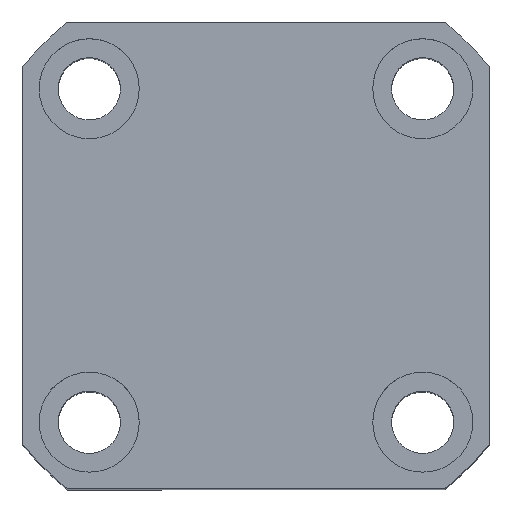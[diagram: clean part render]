
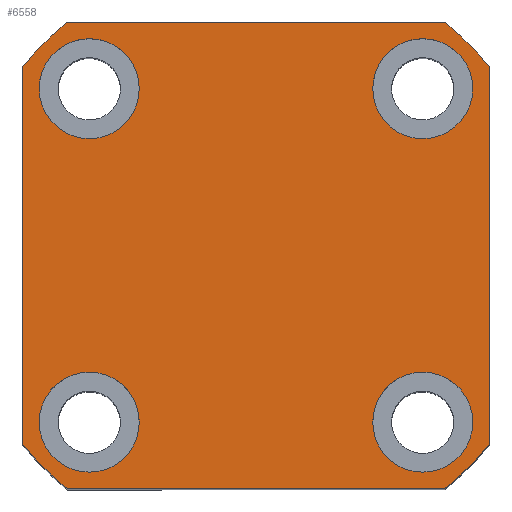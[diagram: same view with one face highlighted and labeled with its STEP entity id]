
A CAD part, top view. The second image highlights one B-rep face of the part: STEP entity #6558.
In plain terms, the highlighted planar face has unit normal (0, 0, 1).
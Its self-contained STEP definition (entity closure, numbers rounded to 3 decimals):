
#4 = CIRCLE ( 'NONE', #5222, 27. ) ;
#18 = CARTESIAN_POINT ( 'NONE',  ( 21., -16.971, 58. ) ) ;
#69 = AXIS2_PLACEMENT_3D ( 'NONE', #9489, #4576, #10306 ) ;
#367 = DIRECTION ( 'NONE',  ( -1., 0., 0. ) ) ;
#392 = DIRECTION ( 'NONE',  ( 1., 0., 0. ) ) ;
#482 = VERTEX_POINT ( 'NONE', #3197 ) ;
#533 = VERTEX_POINT ( 'NONE', #5175 ) ;
#580 = DIRECTION ( 'NONE',  ( 0., 0., 1. ) ) ;
#681 = ORIENTED_EDGE ( 'NONE', *, *, #8653, .T. ) ;
#700 = EDGE_LOOP ( 'NONE', ( #1921, #4027 ) ) ;
#827 = AXIS2_PLACEMENT_3D ( 'NONE', #8312, #3436, #9141 ) ;
#992 = CARTESIAN_POINT ( 'NONE',  ( 15., 15., 58. ) ) ;
#1082 = AXIS2_PLACEMENT_3D ( 'NONE', #5489, #580, #6335 ) ;
#1099 = FACE_BOUND ( 'NONE', #3738, .T. ) ;
#1320 = CARTESIAN_POINT ( 'NONE',  ( 19.5, -14.998, 58. ) ) ;
#1518 = VERTEX_POINT ( 'NONE', #2581 ) ;
#1649 = CARTESIAN_POINT ( 'NONE',  ( 15., -14.998, 58. ) ) ;
#1822 = DIRECTION ( 'NONE',  ( 1., 0., 0. ) ) ;
#1921 = ORIENTED_EDGE ( 'NONE', *, *, #6155, .F. ) ;
#2032 = LINE ( 'NONE', #3797, #10510 ) ;
#2082 = CARTESIAN_POINT ( 'NONE',  ( 21., 21., 58. ) ) ;
#2211 = ORIENTED_EDGE ( 'NONE', *, *, #4512, .T. ) ;
#2319 = CARTESIAN_POINT ( 'NONE',  ( -21., 16.971, 58. ) ) ;
#2340 = AXIS2_PLACEMENT_3D ( 'NONE', #992, #6756, #1822 ) ;
#2500 = DIRECTION ( 'NONE',  ( 1., 0., 0. ) ) ;
#2577 = EDGE_CURVE ( 'NONE', #5698, #482, #8083, .T. ) ;
#2578 = EDGE_CURVE ( 'NONE', #1518, #7618, #5391, .T. ) ;
#2581 = CARTESIAN_POINT ( 'NONE',  ( 19.5, 15., 58. ) ) ;
#2615 = DIRECTION ( 'NONE',  ( 0., -1., 0. ) ) ;
#2632 = ORIENTED_EDGE ( 'NONE', *, *, #7930, .F. ) ;
#2656 = CARTESIAN_POINT ( 'NONE',  ( -19.5, 15.002, 58. ) ) ;
#2689 = CARTESIAN_POINT ( 'NONE',  ( 16.971, 21., 58. ) ) ;
#2700 = VECTOR ( 'NONE', #3765, 1000. ) ;
#2743 = AXIS2_PLACEMENT_3D ( 'NONE', #3083, #8794, #3912 ) ;
#2756 = ORIENTED_EDGE ( 'NONE', *, *, #7371, .T. ) ;
#2802 = EDGE_CURVE ( 'NONE', #5651, #5698, #4, .T. ) ;
#2937 = CARTESIAN_POINT ( 'NONE',  ( 10.5, 15., 58. ) ) ;
#2972 = VERTEX_POINT ( 'NONE', #7332 ) ;
#3083 = CARTESIAN_POINT ( 'NONE',  ( 0., 0., 58. ) ) ;
#3151 = AXIS2_PLACEMENT_3D ( 'NONE', #7195, #3942, #9674 ) ;
#3197 = CARTESIAN_POINT ( 'NONE',  ( 16.971, -21., 58. ) ) ;
#3238 = VECTOR ( 'NONE', #9263, 1000. ) ;
#3384 = CARTESIAN_POINT ( 'NONE',  ( 10.5, -14.998, 58. ) ) ;
#3436 = DIRECTION ( 'NONE',  ( 0., 0., 1. ) ) ;
#3464 = CARTESIAN_POINT ( 'NONE',  ( -15., 15.002, 58. ) ) ;
#3520 = DIRECTION ( 'NONE',  ( 1., 0., 0. ) ) ;
#3558 = DIRECTION ( 'NONE',  ( 0., 0., 1. ) ) ;
#3587 = FACE_BOUND ( 'NONE', #5927, .T. ) ;
#3589 = CARTESIAN_POINT ( 'NONE',  ( 0., 0., 58. ) ) ;
#3732 = EDGE_CURVE ( 'NONE', #2972, #9034, #9880, .T. ) ;
#3738 = EDGE_LOOP ( 'NONE', ( #8786, #9442 ) ) ;
#3765 = DIRECTION ( 'NONE',  ( 0., 1., 0. ) ) ;
#3797 = CARTESIAN_POINT ( 'NONE',  ( -21., 21., 58. ) ) ;
#3906 = AXIS2_PLACEMENT_3D ( 'NONE', #3464, #9174, #4277 ) ;
#3912 = DIRECTION ( 'NONE',  ( 1., 0., 0. ) ) ;
#3935 = AXIS2_PLACEMENT_3D ( 'NONE', #9754, #4821, #10560 ) ;
#3942 = DIRECTION ( 'NONE',  ( 0., 0., 1. ) ) ;
#3989 = CIRCLE ( 'NONE', #69, 4.5 ) ;
#4027 = ORIENTED_EDGE ( 'NONE', *, *, #7264, .F. ) ;
#4256 = DIRECTION ( 'NONE',  ( 0., 0., 1. ) ) ;
#4277 = DIRECTION ( 'NONE',  ( 1., 0., 0. ) ) ;
#4293 = ORIENTED_EDGE ( 'NONE', *, *, #8200, .T. ) ;
#4512 = EDGE_CURVE ( 'NONE', #4972, #6281, #5492, .T. ) ;
#4576 = DIRECTION ( 'NONE',  ( 0., 0., 1. ) ) ;
#4588 = VERTEX_POINT ( 'NONE', #1320 ) ;
#4682 = CARTESIAN_POINT ( 'NONE',  ( -10.5, -14.998, 58. ) ) ;
#4744 = VERTEX_POINT ( 'NONE', #2656 ) ;
#4821 = DIRECTION ( 'NONE',  ( 0., 0., 1. ) ) ;
#4843 = CIRCLE ( 'NONE', #3906, 4.5 ) ;
#4949 = ORIENTED_EDGE ( 'NONE', *, *, #7787, .F. ) ;
#4972 = VERTEX_POINT ( 'NONE', #9429 ) ;
#5059 = CARTESIAN_POINT ( 'NONE',  ( -21., 21., 58. ) ) ;
#5133 = LINE ( 'NONE', #2082, #2700 ) ;
#5175 = CARTESIAN_POINT ( 'NONE',  ( -16.971, 21., 58. ) ) ;
#5222 = AXIS2_PLACEMENT_3D ( 'NONE', #3589, #3558, #3520 ) ;
#5250 = VECTOR ( 'NONE', #2615, 1000. ) ;
#5254 = CIRCLE ( 'NONE', #1082, 27. ) ;
#5271 = ORIENTED_EDGE ( 'NONE', *, *, #2577, .T. ) ;
#5303 = DIRECTION ( 'NONE',  ( 0., 0., 1. ) ) ;
#5391 = CIRCLE ( 'NONE', #10614, 4.5 ) ;
#5473 = FACE_BOUND ( 'NONE', #700, .T. ) ;
#5489 = CARTESIAN_POINT ( 'NONE',  ( 0., 0., 58. ) ) ;
#5492 = CIRCLE ( 'NONE', #2743, 27. ) ;
#5534 = CARTESIAN_POINT ( 'NONE',  ( -21., -16.971, 58. ) ) ;
#5623 = CIRCLE ( 'NONE', #3935, 4.5 ) ;
#5651 = VERTEX_POINT ( 'NONE', #5534 ) ;
#5698 = VERTEX_POINT ( 'NONE', #9678 ) ;
#5873 = CIRCLE ( 'NONE', #2340, 4.5 ) ;
#5886 = VERTEX_POINT ( 'NONE', #3384 ) ;
#5905 = VERTEX_POINT ( 'NONE', #18 ) ;
#5927 = EDGE_LOOP ( 'NONE', ( #2632, #4949 ) ) ;
#5989 = EDGE_LOOP ( 'NONE', ( #8094, #9504 ) ) ;
#6155 = EDGE_CURVE ( 'NONE', #9470, #4744, #4843, .T. ) ;
#6281 = VERTEX_POINT ( 'NONE', #2689 ) ;
#6335 = DIRECTION ( 'NONE',  ( 1., 0., 0. ) ) ;
#6429 = ORIENTED_EDGE ( 'NONE', *, *, #9031, .T. ) ;
#6558 = ADVANCED_FACE ( 'NONE', ( #5473, #9855, #3587, #1099, #7664 ), #8828, .T. ) ;
#6616 = AXIS2_PLACEMENT_3D ( 'NONE', #9156, #4256, #9978 ) ;
#6743 = ORIENTED_EDGE ( 'NONE', *, *, #9248, .T. ) ;
#6756 = DIRECTION ( 'NONE',  ( 0., 0., 1. ) ) ;
#6783 = CIRCLE ( 'NONE', #6616, 27. ) ;
#6821 = AXIS2_PLACEMENT_3D ( 'NONE', #10210, #5303, #392 ) ;
#7118 = CARTESIAN_POINT ( 'NONE',  ( -10.5, 15.002, 58. ) ) ;
#7195 = CARTESIAN_POINT ( 'NONE',  ( 0., 0., 58. ) ) ;
#7264 = EDGE_CURVE ( 'NONE', #4744, #9470, #7687, .T. ) ;
#7307 = CIRCLE ( 'NONE', #8857, 4.5 ) ;
#7332 = CARTESIAN_POINT ( 'NONE',  ( -19.5, -14.998, 58. ) ) ;
#7371 = EDGE_CURVE ( 'NONE', #10277, #5651, #9626, .T. ) ;
#7416 = DIRECTION ( 'NONE',  ( 0., 0., 1. ) ) ;
#7591 = EDGE_CURVE ( 'NONE', #9034, #2972, #3989, .T. ) ;
#7618 = VERTEX_POINT ( 'NONE', #2937 ) ;
#7664 = FACE_OUTER_BOUND ( 'NONE', #8724, .T. ) ;
#7687 = CIRCLE ( 'NONE', #827, 4.5 ) ;
#7787 = EDGE_CURVE ( 'NONE', #5886, #4588, #5623, .T. ) ;
#7930 = EDGE_CURVE ( 'NONE', #4588, #5886, #7307, .T. ) ;
#8083 = LINE ( 'NONE', #9225, #3238 ) ;
#8094 = ORIENTED_EDGE ( 'NONE', *, *, #7591, .F. ) ;
#8200 = EDGE_CURVE ( 'NONE', #6281, #533, #2032, .T. ) ;
#8312 = CARTESIAN_POINT ( 'NONE',  ( -15., 15.002, 58. ) ) ;
#8653 = EDGE_CURVE ( 'NONE', #5905, #4972, #5133, .T. ) ;
#8724 = EDGE_LOOP ( 'NONE', ( #681, #2211, #4293, #6743, #2756, #10432, #5271, #6429 ) ) ;
#8786 = ORIENTED_EDGE ( 'NONE', *, *, #2578, .F. ) ;
#8794 = DIRECTION ( 'NONE',  ( 0., 0., 1. ) ) ;
#8828 = PLANE ( 'NONE',  #3151 ) ;
#8857 = AXIS2_PLACEMENT_3D ( 'NONE', #1649, #7416, #2500 ) ;
#8914 = DIRECTION ( 'NONE',  ( 1., 0., 0. ) ) ;
#8936 = DIRECTION ( 'NONE',  ( 0., 0., 1. ) ) ;
#8972 = CARTESIAN_POINT ( 'NONE',  ( 15., 15., 58. ) ) ;
#9031 = EDGE_CURVE ( 'NONE', #482, #5905, #5254, .T. ) ;
#9034 = VERTEX_POINT ( 'NONE', #4682 ) ;
#9141 = DIRECTION ( 'NONE',  ( 1., 0., 0. ) ) ;
#9156 = CARTESIAN_POINT ( 'NONE',  ( 0., 0., 58. ) ) ;
#9174 = DIRECTION ( 'NONE',  ( 0., 0., 1. ) ) ;
#9225 = CARTESIAN_POINT ( 'NONE',  ( -21., -21., 58. ) ) ;
#9248 = EDGE_CURVE ( 'NONE', #533, #10277, #6783, .T. ) ;
#9263 = DIRECTION ( 'NONE',  ( 1., 0., 0. ) ) ;
#9429 = CARTESIAN_POINT ( 'NONE',  ( 21., 16.971, 58. ) ) ;
#9442 = ORIENTED_EDGE ( 'NONE', *, *, #10094, .F. ) ;
#9470 = VERTEX_POINT ( 'NONE', #7118 ) ;
#9489 = CARTESIAN_POINT ( 'NONE',  ( -15., -14.998, 58. ) ) ;
#9504 = ORIENTED_EDGE ( 'NONE', *, *, #3732, .F. ) ;
#9626 = LINE ( 'NONE', #5059, #5250 ) ;
#9674 = DIRECTION ( 'NONE',  ( 1., 0., 0. ) ) ;
#9678 = CARTESIAN_POINT ( 'NONE',  ( -16.971, -21., 58. ) ) ;
#9754 = CARTESIAN_POINT ( 'NONE',  ( 15., -14.998, 58. ) ) ;
#9855 = FACE_BOUND ( 'NONE', #5989, .T. ) ;
#9880 = CIRCLE ( 'NONE', #6821, 4.5 ) ;
#9978 = DIRECTION ( 'NONE',  ( 1., 0., 0. ) ) ;
#10094 = EDGE_CURVE ( 'NONE', #7618, #1518, #5873, .T. ) ;
#10210 = CARTESIAN_POINT ( 'NONE',  ( -15., -14.998, 58. ) ) ;
#10277 = VERTEX_POINT ( 'NONE', #2319 ) ;
#10306 = DIRECTION ( 'NONE',  ( 1., 0., 0. ) ) ;
#10432 = ORIENTED_EDGE ( 'NONE', *, *, #2802, .T. ) ;
#10510 = VECTOR ( 'NONE', #367, 1000. ) ;
#10560 = DIRECTION ( 'NONE',  ( 1., 0., 0. ) ) ;
#10614 = AXIS2_PLACEMENT_3D ( 'NONE', #8972, #8936, #8914 ) ;
